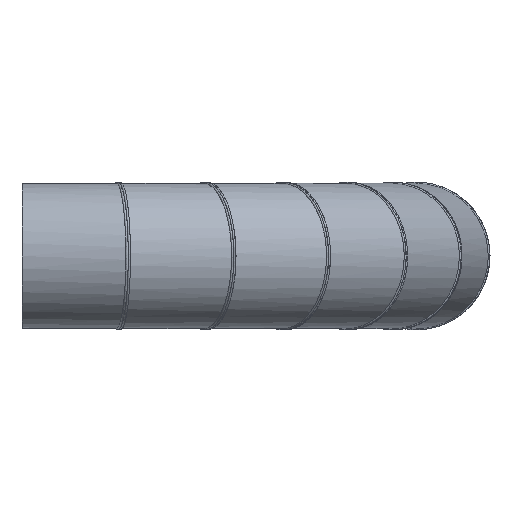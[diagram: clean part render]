
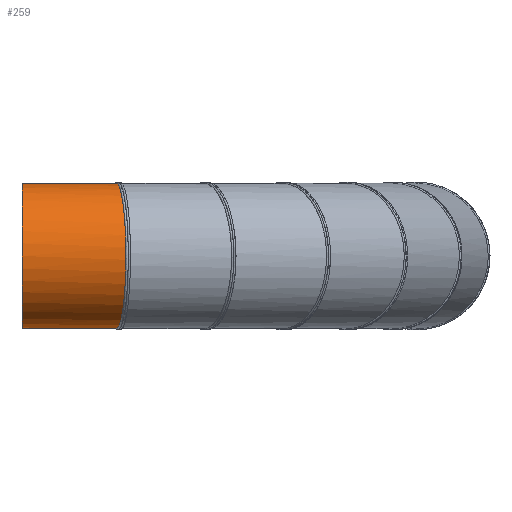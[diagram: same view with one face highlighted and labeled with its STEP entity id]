
A CAD part, front view. The second image highlights one B-rep face of the part: STEP entity #259.
In plain terms, the highlighted cylindrical face has radius 250 mm (diameter 500 mm), a full revolution.
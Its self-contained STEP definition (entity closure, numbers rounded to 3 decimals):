
#18=CIRCLE('',#310,250.);
#113=ORIENTED_EDGE('',*,*,#149,.T.);
#114=ORIENTED_EDGE('',*,*,#142,.F.);
#142=EDGE_CURVE('',#164,#164,#18,.T.);
#149=EDGE_CURVE('',#171,#171,#178,.T.);
#164=VERTEX_POINT('',#1809);
#171=VERTEX_POINT('',#1919);
#178=B_SPLINE_CURVE_WITH_KNOTS('',3,(#1824,#1825,#1826,#1827,#1828,#1829,
#1830,#1831,#1832,#1833,#1834,#1835,#1836,#1837,#1838,#1839,#1840,#1841,
#1842,#1843,#1844,#1845,#1846,#1847,#1848,#1849,#1850,#1851,#1852,#1853,
#1854,#1855,#1856,#1857,#1858,#1859,#1860,#1861,#1862,#1863,#1864,#1865,
#1866,#1867,#1868,#1869,#1870,#1871,#1872,#1873,#1874,#1875,#1876,#1877,
#1878,#1879,#1880,#1881,#1882,#1883,#1884,#1885,#1886,#1887,#1888,#1889,
#1890,#1891,#1892,#1893,#1894,#1895,#1896,#1897,#1898,#1899,#1900,#1901,
#1902,#1903,#1904,#1905,#1906,#1907,#1908,#1909,#1910,#1911,#1912,#1913,
#1914,#1915,#1916,#1917,#1918),.UNSPECIFIED.,.T.,.F.,(1,1,1,1,1,1,1,1,1,
1,1,1,1,1,1,1,1,1,1,1,1,1,1,1,1,1,1,1,1,1,1,1,1,1,1,1,1,1,1,1,1,1,1,1,1,
1,1,1,1,1,1,1,1,1,1,1,1,1,1,1,1,1,1,1,1,1,1,1,1,1,1,1,1,1,1,1,1,1,1,1,1,
1,1,1,1,1,1,1,1,1,1,1,1,1,1,1,1,1,1),(-0.037,-0.025,
-0.012,0.,0.012,0.025,
0.05,0.062,0.074,0.099,
0.124,0.149,0.161,0.173,
0.198,0.223,0.235,0.248,
0.272,0.297,0.309,0.322,
0.334,0.347,0.359,0.371,
0.396,0.421,0.446,0.47,
0.483,0.495,0.507,0.52,
0.545,0.569,0.582,0.594,
0.606,0.619,0.631,0.644,
0.656,0.668,0.693,0.705,
0.718,0.743,0.767,0.78,
0.792,0.817,0.842,0.866,
0.879,0.891,0.903,0.916,
0.941,0.965,0.99,1.015,
1.027,1.04,1.052,1.064,1.089,
1.114,1.126,1.139,1.151,1.163,
1.176,1.188,1.213,1.238,1.25,
1.262,1.287,1.312,1.324,1.337,
1.361,1.386,1.411,1.423,1.436,
1.448,1.46,1.485,1.51,1.535,
1.547,1.559,1.572,1.584,1.596,
1.609,1.634),.UNSPECIFIED.);
#201=EDGE_LOOP('',(#113));
#202=EDGE_LOOP('',(#114));
#229=FACE_BOUND('',#201,.T.);
#230=FACE_BOUND('',#202,.T.);
#243=CYLINDRICAL_SURFACE('',#318,250.);
#259=ADVANCED_FACE('',(#229,#230),#243,.T.);
#310=AXIS2_PLACEMENT_3D('',#1808,#370,#371);
#318=AXIS2_PLACEMENT_3D('',#1823,#386,#387);
#370=DIRECTION('',(0.,1.,0.));
#371=DIRECTION('',(-1.,0.,0.));
#386=DIRECTION('',(0.,1.,0.));
#387=DIRECTION('',(-1.,0.,0.));
#1808=CARTESIAN_POINT('',(1180.48,177.5,0.));
#1809=CARTESIAN_POINT('',(930.48,177.5,0.));
#1823=CARTESIAN_POINT('',(1180.48,-188.326,0.));
#1824=CARTESIAN_POINT('',(930.684,-114.492,-12.359));
#1825=CARTESIAN_POINT('',(930.378,-114.452,-0.005));
#1826=CARTESIAN_POINT('',(930.685,-114.492,12.381));
#1827=CARTESIAN_POINT('',(931.905,-114.653,28.8));
#1828=CARTESIAN_POINT('',(934.347,-114.973,45.137));
#1829=CARTESIAN_POINT('',(937.978,-115.451,61.187));
#1830=CARTESIAN_POINT('',(942.409,-116.033,77.078));
#1831=CARTESIAN_POINT('',(949.375,-116.948,96.403));
#1832=CARTESIAN_POINT('',(960.017,-118.347,118.738));
#1833=CARTESIAN_POINT('',(970.614,-119.739,136.288));
#1834=CARTESIAN_POINT('',(980.144,-120.992,149.72));
#1835=CARTESIAN_POINT('',(990.241,-122.319,162.558));
#1836=CARTESIAN_POINT('',(1003.913,-124.116,177.541));
#1837=CARTESIAN_POINT('',(1018.96,-126.094,191.12));
#1838=CARTESIAN_POINT('',(1031.833,-127.787,201.133));
#1839=CARTESIAN_POINT('',(1045.275,-129.554,210.564));
#1840=CARTESIAN_POINT('',(1062.804,-131.859,221.027));
#1841=CARTESIAN_POINT('',(1081.359,-134.3,229.765));
#1842=CARTESIAN_POINT('',(1096.59,-136.304,235.611));
#1843=CARTESIAN_POINT('',(1108.238,-137.836,239.44));
#1844=CARTESIAN_POINT('',(1120.073,-139.393,242.696));
#1845=CARTESIAN_POINT('',(1132.012,-140.964,245.358));
#1846=CARTESIAN_POINT('',(1144.07,-142.551,247.436));
#1847=CARTESIAN_POINT('',(1160.32,-144.69,249.42));
#1848=CARTESIAN_POINT('',(1180.669,-147.369,250.401));
#1849=CARTESIAN_POINT('',(1205.216,-150.601,249.173));
#1850=CARTESIAN_POINT('',(1229.192,-153.758,245.605));
#1851=CARTESIAN_POINT('',(1248.786,-156.339,240.726));
#1852=CARTESIAN_POINT('',(1264.202,-158.37,235.67));
#1853=CARTESIAN_POINT('',(1275.664,-159.88,231.28));
#1854=CARTESIAN_POINT('',(1286.89,-161.359,226.333));
#1855=CARTESIAN_POINT('',(1301.488,-163.283,219.03));
#1856=CARTESIAN_POINT('',(1319.117,-165.607,208.521));
#1857=CARTESIAN_POINT('',(1335.557,-167.773,196.389));
#1858=CARTESIAN_POINT('',(1348.021,-169.417,185.69));
#1859=CARTESIAN_POINT('',(1356.939,-170.593,177.235));
#1860=CARTESIAN_POINT('',(1365.426,-171.712,168.36));
#1861=CARTESIAN_POINT('',(1373.492,-172.775,159.05));
#1862=CARTESIAN_POINT('',(1381.094,-173.777,149.347));
#1863=CARTESIAN_POINT('',(1388.191,-174.714,139.307));
#1864=CARTESIAN_POINT('',(1394.796,-175.585,128.916));
#1865=CARTESIAN_POINT('',(1402.937,-176.658,114.592));
#1866=CARTESIAN_POINT('',(1409.966,-177.586,99.773));
#1867=CARTESIAN_POINT('',(1415.915,-178.37,84.387));
#1868=CARTESIAN_POINT('',(1421.064,-179.049,68.819));
#1869=CARTESIAN_POINT('',(1426.019,-179.703,49.078));
#1870=CARTESIAN_POINT('',(1429.033,-180.101,28.951));
#1871=CARTESIAN_POINT('',(1430.263,-180.263,12.626));
#1872=CARTESIAN_POINT('',(1430.688,-180.319,-3.882));
#1873=CARTESIAN_POINT('',(1429.694,-180.188,-24.409));
#1874=CARTESIAN_POINT('',(1426.062,-179.709,-48.918));
#1875=CARTESIAN_POINT('',(1421.06,-179.049,-68.848));
#1876=CARTESIAN_POINT('',(1415.873,-178.365,-84.505));
#1877=CARTESIAN_POINT('',(1411.425,-177.778,-95.993));
#1878=CARTESIAN_POINT('',(1406.419,-177.118,-107.25));
#1879=CARTESIAN_POINT('',(1398.984,-176.137,-121.96));
#1880=CARTESIAN_POINT('',(1388.411,-174.743,-139.526));
#1881=CARTESIAN_POINT('',(1373.64,-172.794,-159.343));
#1882=CARTESIAN_POINT('',(1357.243,-170.633,-177.344));
#1883=CARTESIAN_POINT('',(1342.216,-168.651,-190.936));
#1884=CARTESIAN_POINT('',(1329.387,-166.96,-200.939));
#1885=CARTESIAN_POINT('',(1319.328,-165.634,-208.018));
#1886=CARTESIAN_POINT('',(1308.953,-164.267,-214.58));
#1887=CARTESIAN_POINT('',(1294.74,-162.394,-222.624));
#1888=CARTESIAN_POINT('',(1276.197,-159.95,-231.384));
#1889=CARTESIAN_POINT('',(1256.996,-157.421,-238.248));
#1890=CARTESIAN_POINT('',(1241.211,-155.341,-242.615));
#1891=CARTESIAN_POINT('',(1229.268,-153.768,-245.295));
#1892=CARTESIAN_POINT('',(1217.219,-152.182,-247.387));
#1893=CARTESIAN_POINT('',(1205.046,-150.579,-248.891));
#1894=CARTESIAN_POINT('',(1192.825,-148.969,-249.795));
#1895=CARTESIAN_POINT('',(1176.534,-146.825,-250.202));
#1896=CARTESIAN_POINT('',(1156.081,-144.132,-249.208));
#1897=CARTESIAN_POINT('',(1135.926,-141.48,-246.236));
#1898=CARTESIAN_POINT('',(1119.941,-139.376,-242.663));
#1899=CARTESIAN_POINT('',(1104.253,-137.312,-238.337));
#1900=CARTESIAN_POINT('',(1085.212,-134.807,-231.559));
#1901=CARTESIAN_POINT('',(1066.909,-132.399,-222.973));
#1902=CARTESIAN_POINT('',(1052.725,-130.534,-215.009));
#1903=CARTESIAN_POINT('',(1038.827,-128.706,-206.282));
#1904=CARTESIAN_POINT('',(1022.369,-126.542,-194.171));
#1905=CARTESIAN_POINT('',(1004.033,-124.131,-177.675));
#1906=CARTESIAN_POINT('',(990.233,-122.318,-162.555));
#1907=CARTESIAN_POINT('',(980.065,-120.981,-149.615));
#1908=CARTESIAN_POINT('',(972.952,-120.046,-139.58));
#1909=CARTESIAN_POINT('',(966.339,-119.177,-129.206));
#1910=CARTESIAN_POINT('',(958.18,-118.105,-114.895));
#1911=CARTESIAN_POINT('',(949.358,-116.946,-96.364));
#1912=CARTESIAN_POINT('',(940.972,-115.844,-73.07));
#1913=CARTESIAN_POINT('',(935.954,-115.185,-53.157));
#1914=CARTESIAN_POINT('',(933.114,-114.812,-36.895));
#1915=CARTESIAN_POINT('',(931.597,-114.612,-24.655));
#1916=CARTESIAN_POINT('',(930.684,-114.492,-12.359));
#1917=CARTESIAN_POINT('',(930.378,-114.452,-0.005));
#1918=CARTESIAN_POINT('',(930.685,-114.492,12.381));
#1919=CARTESIAN_POINT('',(930.48,-114.465,0.));
